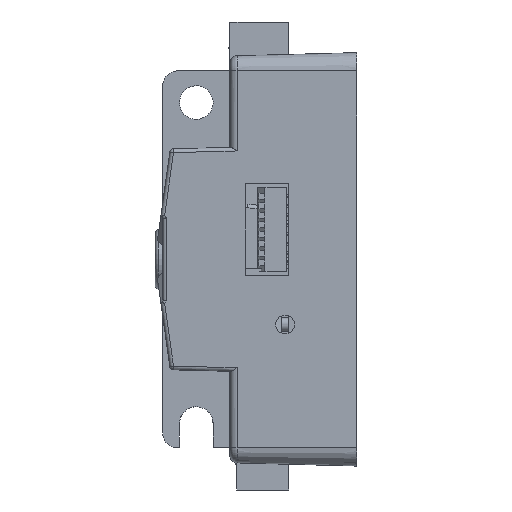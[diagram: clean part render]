
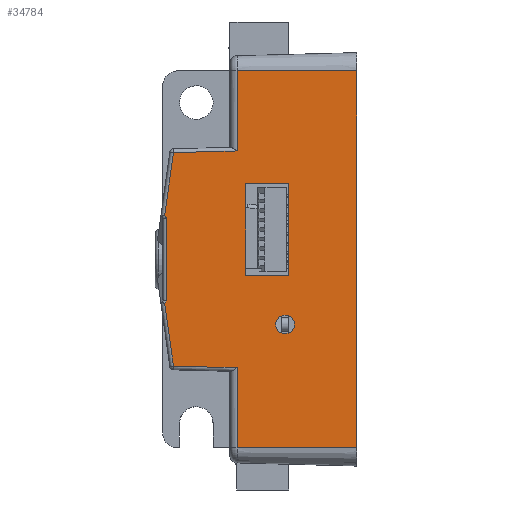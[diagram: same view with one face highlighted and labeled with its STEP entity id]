
A CAD part, left-side view. The second image highlights one B-rep face of the part: STEP entity #34784.
In plain terms, the highlighted planar face has unit normal (-1, 0.026, 0).
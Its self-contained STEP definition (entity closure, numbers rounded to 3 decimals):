
#27850=DIRECTION('',(0.,0.,1.));
#27851=VECTOR('',#27850,50.5);
#27852=CARTESIAN_POINT('',(-22.695,0.,-25.25));
#27853=LINE('',#27852,#27851);
#30197=DIRECTION('',(0.026,0.999,0.026));
#30198=VECTOR('',#30197,8.54);
#30199=CARTESIAN_POINT('',(-22.276,16.026,
-14.526));
#30200=LINE('',#30199,#30198);
#30204=DIRECTION('',(0.004,0.139,0.99));
#30205=VECTOR('',#30204,8.496);
#30206=CARTESIAN_POINT('',(-22.052,24.56,
-14.302));
#30207=LINE('',#30206,#30205);
#30211=DIRECTION('',(0.015,0.584,-0.811));
#30212=VECTOR('',#30211,0.393);
#30213=CARTESIAN_POINT('',(-22.027,25.513,
-5.57));
#30214=LINE('',#30213,#30212);
#30218=DIRECTION('',(0.,0.,-1.));
#30219=VECTOR('',#30218,11.14);
#30220=CARTESIAN_POINT('',(-22.027,25.513,
5.57));
#30221=LINE('',#30220,#30219);
#30225=DIRECTION('',(-0.015,-0.584,-0.811));
#30226=VECTOR('',#30225,0.393);
#30227=CARTESIAN_POINT('',(-22.021,25.743,
5.889));
#30228=LINE('',#30227,#30226);
#30232=DIRECTION('',(-0.004,-0.139,0.99));
#30233=VECTOR('',#30232,8.496);
#30234=CARTESIAN_POINT('',(-22.021,25.743,
5.889));
#30235=LINE('',#30234,#30233);
#30239=DIRECTION('',(-0.026,-0.999,0.026));
#30240=VECTOR('',#30239,8.54);
#30241=CARTESIAN_POINT('',(-22.052,24.56,
14.302));
#30242=LINE('',#30241,#30240);
#30246=DIRECTION('',(0.,0.,1.));
#30247=VECTOR('',#30246,12.3);
#30248=CARTESIAN_POINT('',(-22.305,14.9,-2.15));
#30249=LINE('',#30248,#30247);
#30253=DIRECTION('',(0.026,1.,0.));
#30254=VECTOR('',#30253,5.802);
#30255=CARTESIAN_POINT('',(-22.457,9.1,-2.15));
#30256=LINE('',#30255,#30254);
#30260=DIRECTION('',(0.,0.,1.));
#30261=VECTOR('',#30260,12.3);
#30262=CARTESIAN_POINT('',(-22.457,9.1,-2.15));
#30263=LINE('',#30262,#30261);
#30267=CARTESIAN_POINT('',(-22.444,9.6,-7.469));
#30268=CARTESIAN_POINT('',(-22.44,9.747,-7.469));
#30269=CARTESIAN_POINT('',(-22.432,10.066,
-7.522));
#30270=CARTESIAN_POINT('',(-22.42,10.51,
-7.807));
#30271=CARTESIAN_POINT('',(-22.412,10.797,
-8.256));
#30272=CARTESIAN_POINT('',(-22.41,10.877,-8.719));
#30273=CARTESIAN_POINT('',(-22.412,10.797,
-9.181));
#30274=CARTESIAN_POINT('',(-22.42,10.51,
-9.63));
#30275=CARTESIAN_POINT('',(-22.432,10.066,
-9.915));
#30276=CARTESIAN_POINT('',(-22.44,9.747,-9.969));
#30277=CARTESIAN_POINT('',(-22.444,9.6,-9.969));
#30282=CARTESIAN_POINT('',(-22.444,9.6,-9.969));
#30283=CARTESIAN_POINT('',(-22.448,9.453,-9.969));
#30284=CARTESIAN_POINT('',(-22.456,9.134,
-9.915));
#30285=CARTESIAN_POINT('',(-22.468,8.69,
-9.63));
#30286=CARTESIAN_POINT('',(-22.475,8.403,
-9.181));
#30287=CARTESIAN_POINT('',(-22.477,8.323,-8.719));
#30288=CARTESIAN_POINT('',(-22.475,8.403,
-8.256));
#30289=CARTESIAN_POINT('',(-22.468,8.69,
-7.807));
#30290=CARTESIAN_POINT('',(-22.456,9.134,
-7.522));
#30291=CARTESIAN_POINT('',(-22.448,9.453,-7.469));
#30292=CARTESIAN_POINT('',(-22.444,9.6,-7.469));
#30339=DIRECTION('',(0.,0.,-1.));
#30340=VECTOR('',#30339,10.724);
#30341=CARTESIAN_POINT('',(-22.276,16.026,
-14.526));
#30342=LINE('',#30341,#30340);
#30370=DIRECTION('',(-0.026,-1.,
0.));
#30371=VECTOR('',#30370,16.032);
#30372=CARTESIAN_POINT('',(-22.276,16.026,
-25.25));
#30373=LINE('',#30372,#30371);
#30609=DIRECTION('',(0.,0.,-1.));
#30610=VECTOR('',#30609,10.724);
#30611=CARTESIAN_POINT('',(-22.276,16.026,
25.25));
#30612=LINE('',#30611,#30610);
#31371=DIRECTION('',(-0.026,-1.,0.));
#31372=VECTOR('',#31371,5.802);
#31373=CARTESIAN_POINT('',(-22.305,14.9,10.15));
#31374=LINE('',#31373,#31372);
#31479=DIRECTION('',(0.026,1.,0.));
#31480=VECTOR('',#31479,16.032);
#31481=CARTESIAN_POINT('',(-22.695,0.,25.25));
#31482=LINE('',#31481,#31480);
#32492=CARTESIAN_POINT('',(-22.695,0.,-25.25));
#32494=VERTEX_POINT('',#32492);
#32497=CARTESIAN_POINT('',(-22.695,0.,25.25));
#32499=VERTEX_POINT('',#32497);
#32577=CARTESIAN_POINT('',(-22.457,9.1,10.15));
#32579=VERTEX_POINT('',#32577);
#32715=CARTESIAN_POINT('',(-22.276,16.026,-25.25));
#32717=VERTEX_POINT('',#32715);
#32728=CARTESIAN_POINT('',(-22.276,16.026,25.25));
#32729=VERTEX_POINT('',#32728);
#32818=CARTESIAN_POINT('',(-22.276,16.026,
-14.526));
#32819=CARTESIAN_POINT('',(-22.052,24.56,
-14.302));
#32820=VERTEX_POINT('',#32818);
#32821=VERTEX_POINT('',#32819);
#32822=CARTESIAN_POINT('',(-22.052,24.56,
14.302));
#32823=CARTESIAN_POINT('',(-22.276,16.026,
14.526));
#32824=VERTEX_POINT('',#32822);
#32825=VERTEX_POINT('',#32823);
#32830=CARTESIAN_POINT('',(-22.021,25.743,
5.889));
#32831=CARTESIAN_POINT('',(-22.027,25.513,
5.57));
#32832=VERTEX_POINT('',#32830);
#32833=VERTEX_POINT('',#32831);
#32838=CARTESIAN_POINT('',(-22.027,25.513,
-5.57));
#32839=VERTEX_POINT('',#32838);
#32840=CARTESIAN_POINT('',(-22.021,25.743,
-5.889));
#32841=VERTEX_POINT('',#32840);
#32987=CARTESIAN_POINT('',(-22.305,14.9,10.15));
#32988=VERTEX_POINT('',#32987);
#33155=CARTESIAN_POINT('',(-22.457,9.1,-2.15));
#33156=VERTEX_POINT('',#33155);
#33159=CARTESIAN_POINT('',(-22.305,14.9,-2.15));
#33160=VERTEX_POINT('',#33159);
#33163=VERTEX_POINT('',#30267);
#33164=VERTEX_POINT('',#30277);
#34741=CARTESIAN_POINT('',(-22.25,17.,-29.179));
#34742=DIRECTION('',(-1.,0.026,0.));
#34743=DIRECTION('',(0.,0.,1.));
#34744=AXIS2_PLACEMENT_3D('',#34741,#34742,#34743);
#34745=PLANE('',#34744);
#34747=ORIENTED_EDGE('',*,*,#34746,.T.);
#34748=ORIENTED_EDGE('',*,*,#34486,.T.);
#34750=ORIENTED_EDGE('',*,*,#34749,.F.);
#34751=ORIENTED_EDGE('',*,*,#34702,.F.);
#34752=ORIENTED_EDGE('',*,*,#34732,.F.);
#34754=ORIENTED_EDGE('',*,*,#34753,.T.);
#34756=ORIENTED_EDGE('',*,*,#34755,.T.);
#34758=ORIENTED_EDGE('',*,*,#34757,.F.);
#34760=ORIENTED_EDGE('',*,*,#34759,.F.);
#34761=ORIENTED_EDGE('',*,*,#33180,.F.);
#34763=ORIENTED_EDGE('',*,*,#34762,.F.);
#34765=ORIENTED_EDGE('',*,*,#34764,.F.);
#34766=EDGE_LOOP('',(#34747,#34748,#34750,#34751,#34752,#34754,#34756,#34758,
#34760,#34761,#34763,#34765));
#34767=FACE_OUTER_BOUND('',#34766,.F.);
#34769=ORIENTED_EDGE('',*,*,#34768,.F.);
#34771=ORIENTED_EDGE('',*,*,#34770,.F.);
#34773=ORIENTED_EDGE('',*,*,#34772,.T.);
#34775=ORIENTED_EDGE('',*,*,#34774,.F.);
#34776=EDGE_LOOP('',(#34769,#34771,#34773,#34775));
#34777=FACE_BOUND('',#34776,.F.);
#34779=ORIENTED_EDGE('',*,*,#34778,.T.);
#34781=ORIENTED_EDGE('',*,*,#34780,.T.);
#34782=EDGE_LOOP('',(#34779,#34781));
#34783=FACE_BOUND('',#34782,.F.);
#34784=ADVANCED_FACE('',(#34767,#34777,#34783),#34745,.T.);
#30278=B_SPLINE_CURVE_WITH_KNOTS('',3,(#30267,#30268,#30269,#30270,#30271,
#30272,#30273,#30274,#30275,#30276,#30277),.UNSPECIFIED.,.F.,.F.,(4,1,1,1,1,1,1,
1,4),(0.,0.125,0.25,0.375,0.5,0.625,0.75,0.875,1.),
.UNSPECIFIED.);
#30293=B_SPLINE_CURVE_WITH_KNOTS('',3,(#30282,#30283,#30284,#30285,#30286,
#30287,#30288,#30289,#30290,#30291,#30292),.UNSPECIFIED.,.F.,.F.,(4,1,1,1,1,1,1,
1,4),(0.,0.125,0.25,0.375,0.5,0.625,0.75,0.875,1.),
.UNSPECIFIED.);
#33180=EDGE_CURVE('',#32494,#32499,#27853,.T.);
#34486=EDGE_CURVE('',#32821,#32841,#30207,.T.);
#34702=EDGE_CURVE('',#32833,#32839,#30221,.T.);
#34732=EDGE_CURVE('',#32832,#32833,#30228,.T.);
#34746=EDGE_CURVE('',#32820,#32821,#30200,.T.);
#34749=EDGE_CURVE('',#32839,#32841,#30214,.T.);
#34753=EDGE_CURVE('',#32832,#32824,#30235,.T.);
#34755=EDGE_CURVE('',#32824,#32825,#30242,.T.);
#34757=EDGE_CURVE('',#32729,#32825,#30612,.T.);
#34759=EDGE_CURVE('',#32499,#32729,#31482,.T.);
#34762=EDGE_CURVE('',#32717,#32494,#30373,.T.);
#34764=EDGE_CURVE('',#32820,#32717,#30342,.T.);
#34768=EDGE_CURVE('',#33160,#32988,#30249,.T.);
#34770=EDGE_CURVE('',#33156,#33160,#30256,.T.);
#34772=EDGE_CURVE('',#33156,#32579,#30263,.T.);
#34774=EDGE_CURVE('',#32988,#32579,#31374,.T.);
#34778=EDGE_CURVE('',#33163,#33164,#30278,.T.);
#34780=EDGE_CURVE('',#33164,#33163,#30293,.T.);
